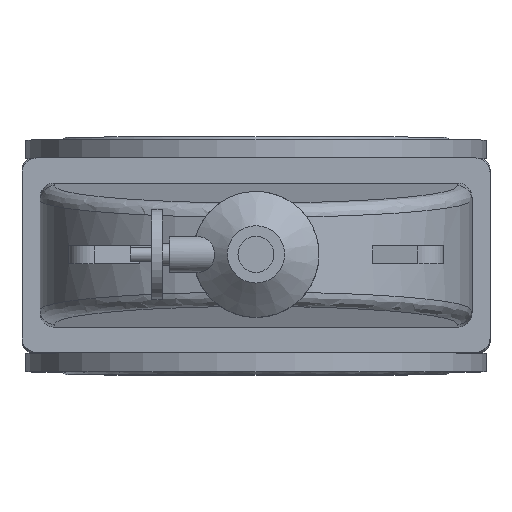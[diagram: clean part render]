
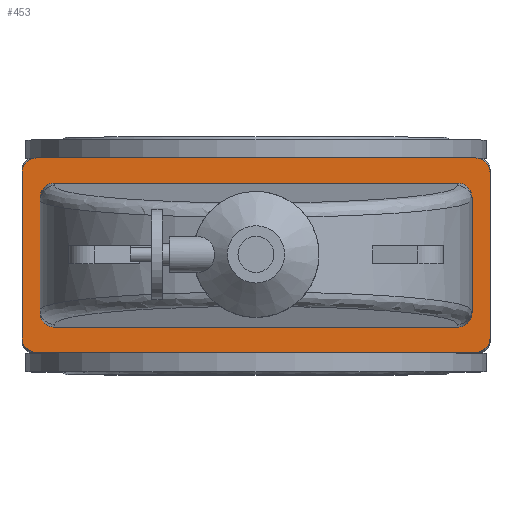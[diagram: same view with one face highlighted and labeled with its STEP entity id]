
A CAD part, top view. The second image highlights one B-rep face of the part: STEP entity #453.
In plain terms, the highlighted planar face has unit normal (0, 0, 1).
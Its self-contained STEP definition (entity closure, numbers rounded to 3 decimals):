
#453=ADVANCED_FACE('',(#4327,#4329),#4331,.T.);
#4327=FACE_BOUND('',#4328,.T.);
#4328=EDGE_LOOP('',(#8346,#8347,#8348,#8349,#8350,#8351,#8352,#8353));
#4329=FACE_BOUND('',#4330,.T.);
#4330=EDGE_LOOP('',(#8354,#8355,#8356,#8357,#8358,#8359,#8360,#8361));
#4331=PLANE('',#4332);
#4332=AXIS2_PLACEMENT_3D('',#4333,#4334,#4335);
#4333=CARTESIAN_POINT('',(0.,0.,686.));
#4334=DIRECTION('',(0.,-0.,1.));
#4335=DIRECTION('',(0.,1.,0.));
#8346=ORIENTED_EDGE('',*,*,#10369,.F.);
#8347=ORIENTED_EDGE('',*,*,#10370,.T.);
#8348=ORIENTED_EDGE('',*,*,#10371,.F.);
#8349=ORIENTED_EDGE('',*,*,#10372,.T.);
#8350=ORIENTED_EDGE('',*,*,#10373,.F.);
#8351=ORIENTED_EDGE('',*,*,#10374,.T.);
#8352=ORIENTED_EDGE('',*,*,#10375,.F.);
#8353=ORIENTED_EDGE('',*,*,#10376,.T.);
#8354=ORIENTED_EDGE('',*,*,#10367,.F.);
#8355=ORIENTED_EDGE('',*,*,#10366,.F.);
#8356=ORIENTED_EDGE('',*,*,#10368,.F.);
#8357=ORIENTED_EDGE('',*,*,#10341,.F.);
#8358=ORIENTED_EDGE('',*,*,#10377,.F.);
#8359=ORIENTED_EDGE('',*,*,#10378,.F.);
#8360=ORIENTED_EDGE('',*,*,#10379,.F.);
#8361=ORIENTED_EDGE('',*,*,#10334,.F.);
#10334=EDGE_CURVE('',#11419,#11421,#11422,.T.);
#10341=EDGE_CURVE('',#11431,#11429,#11433,.T.);
#10366=EDGE_CURVE('',#11472,#11470,#11474,.T.);
#10367=EDGE_CURVE('',#11470,#11419,#11475,.F.);
#10368=EDGE_CURVE('',#11429,#11472,#11476,.T.);
#10369=EDGE_CURVE('',#11477,#11478,#11479,.F.);
#10370=EDGE_CURVE('',#11477,#11480,#11481,.T.);
#10371=EDGE_CURVE('',#11482,#11480,#11483,.F.);
#10372=EDGE_CURVE('',#11482,#11484,#11485,.T.);
#10373=EDGE_CURVE('',#11486,#11484,#11487,.F.);
#10374=EDGE_CURVE('',#11486,#11488,#11489,.T.);
#10375=EDGE_CURVE('',#11490,#11488,#11491,.F.);
#10376=EDGE_CURVE('',#11490,#11478,#11492,.T.);
#10377=EDGE_CURVE('',#11493,#11431,#11494,.F.);
#10378=EDGE_CURVE('',#11495,#11493,#11496,.T.);
#10379=EDGE_CURVE('',#11421,#11495,#11497,.T.);
#11419=VERTEX_POINT('',#13553);
#11421=VERTEX_POINT('',#13557);
#11422=LINE('',#13558,#13559);
#11429=VERTEX_POINT('',#13578);
#11431=VERTEX_POINT('',#13582);
#11433=LINE('',#13586,#13587);
#11470=VERTEX_POINT('',#13679);
#11472=VERTEX_POINT('',#13683);
#11474=LINE('',#13687,#13688);
#11475=(BOUNDED_CURVE()B_SPLINE_CURVE(3,
(#13690,#13691,#13692,#13693),
.UNSPECIFIED.,.F.,.F.)B_SPLINE_CURVE_WITH_KNOTS((4,4),
(0.,1.),
.UNSPECIFIED.)CURVE()GEOMETRIC_REPRESENTATION_ITEM()RATIONAL_B_SPLINE_CURVE((1.,
0.805,0.805,1.))REPRESENTATION_ITEM(''));
#11476=(BOUNDED_CURVE()B_SPLINE_CURVE(3,
(#13694,#13695,#13696,#13697),
.UNSPECIFIED.,.F.,.F.)B_SPLINE_CURVE_WITH_KNOTS((4,4),
(0.,1.),
.UNSPECIFIED.)CURVE()GEOMETRIC_REPRESENTATION_ITEM()RATIONAL_B_SPLINE_CURVE((1.,
0.805,0.805,1.))REPRESENTATION_ITEM(''));
#11477=VERTEX_POINT('',#13698);
#11478=VERTEX_POINT('',#13699);
#11479=CIRCLE('',#13700,20.);
#11480=VERTEX_POINT('',#13704);
#11481=LINE('',#13705,#13706);
#11482=VERTEX_POINT('',#13708);
#11483=CIRCLE('',#13709,20.);
#11484=VERTEX_POINT('',#13713);
#11485=LINE('',#13714,#13715);
#11486=VERTEX_POINT('',#13717);
#11487=CIRCLE('',#13718,20.);
#11488=VERTEX_POINT('',#13722);
#11489=LINE('',#13723,#13724);
#11490=VERTEX_POINT('',#13726);
#11491=CIRCLE('',#13727,20.);
#11492=LINE('',#13731,#13732);
#11493=VERTEX_POINT('',#13734);
#11494=(BOUNDED_CURVE()B_SPLINE_CURVE(3,
(#13735,#13736,#13737,#13738),
.UNSPECIFIED.,.F.,.F.)B_SPLINE_CURVE_WITH_KNOTS((4,4),
(0.,1.),
.UNSPECIFIED.)CURVE()GEOMETRIC_REPRESENTATION_ITEM()RATIONAL_B_SPLINE_CURVE((1.,
0.805,0.805,1.))REPRESENTATION_ITEM(''));
#11495=VERTEX_POINT('',#13739);
#11496=LINE('',#13740,#13741);
#11497=(BOUNDED_CURVE()B_SPLINE_CURVE(3,
(#13743,#13744,#13745,#13746),
.UNSPECIFIED.,.F.,.F.)B_SPLINE_CURVE_WITH_KNOTS((4,4),
(0.,1.),
.UNSPECIFIED.)CURVE()GEOMETRIC_REPRESENTATION_ITEM()RATIONAL_B_SPLINE_CURVE((1.,
0.805,0.805,1.))REPRESENTATION_ITEM(''));
#13553=CARTESIAN_POINT('',(300.,-79.924,686.));
#13557=CARTESIAN_POINT('',(300.,79.924,686.));
#13558=CARTESIAN_POINT('',(300.,-79.924,686.));
#13559=VECTOR('',#13560,1.);
#13560=DIRECTION('',(0.,1.,0.));
#13578=CARTESIAN_POINT('',(-300.,-79.924,686.));
#13582=CARTESIAN_POINT('',(-300.,79.924,686.));
#13586=CARTESIAN_POINT('',(-300.,79.924,686.));
#13587=VECTOR('',#13588,1.);
#13588=DIRECTION('',(0.,-1.,0.));
#13679=CARTESIAN_POINT('',(280.,-100.,686.));
#13683=CARTESIAN_POINT('',(-280.,-100.,686.));
#13687=CARTESIAN_POINT('',(-280.,-100.,686.));
#13688=VECTOR('',#13689,1.);
#13689=DIRECTION('',(1.,0.,0.));
#13690=CARTESIAN_POINT('',(300.,-79.924,686.));
#13691=CARTESIAN_POINT('',(300.,-91.684,686.));
#13692=CARTESIAN_POINT('',(291.716,-100.,686.));
#13693=CARTESIAN_POINT('',(280.,-100.,686.));
#13694=CARTESIAN_POINT('',(-300.,-79.924,686.));
#13695=CARTESIAN_POINT('',(-300.,-91.684,686.));
#13696=CARTESIAN_POINT('',(-291.716,-100.,686.));
#13697=CARTESIAN_POINT('',(-280.,-100.,686.));
#13698=CARTESIAN_POINT('',(-305.,-135.,686.));
#13699=CARTESIAN_POINT('',(-325.,-115.,686.));
#13700=AXIS2_PLACEMENT_3D('',#13701,#13702,#13703);
#13701=CARTESIAN_POINT('',(-305.,-115.,686.));
#13702=DIRECTION('',(0.,-0.,1.));
#13703=DIRECTION('',(-1.,0.,0.));
#13704=CARTESIAN_POINT('',(305.,-135.,686.));
#13705=CARTESIAN_POINT('',(-305.,-135.,686.));
#13706=VECTOR('',#13707,1.);
#13707=DIRECTION('',(1.,0.,0.));
#13708=CARTESIAN_POINT('',(325.,-115.,686.));
#13709=AXIS2_PLACEMENT_3D('',#13710,#13711,#13712);
#13710=CARTESIAN_POINT('',(305.,-115.,686.));
#13711=DIRECTION('',(0.,-0.,1.));
#13712=DIRECTION('',(0.,-1.,0.));
#13713=CARTESIAN_POINT('',(325.,115.,686.));
#13714=CARTESIAN_POINT('',(325.,-115.,686.));
#13715=VECTOR('',#13716,1.);
#13716=DIRECTION('',(0.,1.,0.));
#13717=CARTESIAN_POINT('',(305.,135.,686.));
#13718=AXIS2_PLACEMENT_3D('',#13719,#13720,#13721);
#13719=CARTESIAN_POINT('',(305.,115.,686.));
#13720=DIRECTION('',(0.,-0.,1.));
#13721=DIRECTION('',(1.,0.,0.));
#13722=CARTESIAN_POINT('',(-305.,135.,686.));
#13723=CARTESIAN_POINT('',(305.,135.,686.));
#13724=VECTOR('',#13725,1.);
#13725=DIRECTION('',(-1.,0.,0.));
#13726=CARTESIAN_POINT('',(-325.,115.,686.));
#13727=AXIS2_PLACEMENT_3D('',#13728,#13729,#13730);
#13728=CARTESIAN_POINT('',(-305.,115.,686.));
#13729=DIRECTION('',(0.,-0.,1.));
#13730=DIRECTION('',(0.,1.,0.));
#13731=CARTESIAN_POINT('',(-325.,115.,686.));
#13732=VECTOR('',#13733,1.);
#13733=DIRECTION('',(0.,-1.,0.));
#13734=CARTESIAN_POINT('',(-280.,100.,686.));
#13735=CARTESIAN_POINT('',(-300.,79.924,686.));
#13736=CARTESIAN_POINT('',(-300.,91.684,686.));
#13737=CARTESIAN_POINT('',(-291.716,100.,686.));
#13738=CARTESIAN_POINT('',(-280.,100.,686.));
#13739=CARTESIAN_POINT('',(280.,100.,686.));
#13740=CARTESIAN_POINT('',(280.,100.,686.));
#13741=VECTOR('',#13742,1.);
#13742=DIRECTION('',(-1.,0.,0.));
#13743=CARTESIAN_POINT('',(300.,79.924,686.));
#13744=CARTESIAN_POINT('',(300.,91.684,686.));
#13745=CARTESIAN_POINT('',(291.716,100.,686.));
#13746=CARTESIAN_POINT('',(280.,100.,686.));
